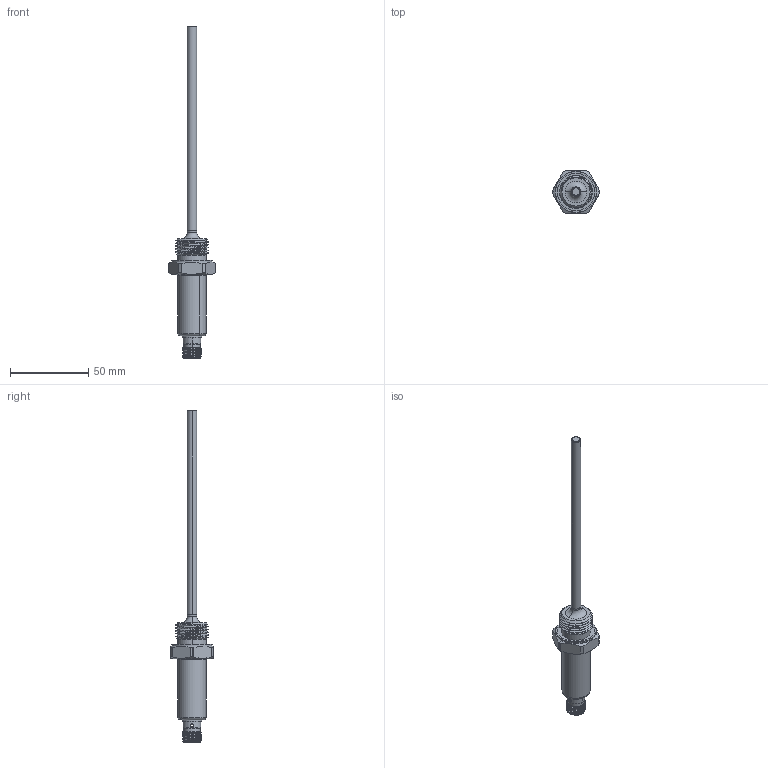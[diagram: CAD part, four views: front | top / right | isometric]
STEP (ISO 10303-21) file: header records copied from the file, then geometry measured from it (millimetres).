
FILE_DESCRIPTION (( 'STEP AP214' ), '1' );
FILE_NAME ('BTA1A34.STEP', '2026-03-16T03:05:27', ( '' ), ( '' ), 'SwSTEP 2.0', 'SolidWorks 2025', '' );
FILE_SCHEMA (( 'AUTOMOTIVE_DESIGN' ));
Length unit declared in the file: millimetre
Products named in the file (5): ____; __________11; BTA1A34; G4__________; ________
Assembly tree (4 placements, depth 2):
  BTA1A34
    G4__________
    ________
    ____
    __________11
Bounding box: 30 x 27 x 212.4 mm (x, y, z)
Volume: 13226.5 mm3; surface area: 12668.9 mm2
Topology: 4 solids, 4 shells, 144 faces, 335 edges, 214 vertices
Faces by surface type: cylinder 77, plane 32, cone 15, torus 14, bspline 6
Entity records: 7402 total; most frequent: CARTESIAN_POINT 4059, DIRECTION 683, ORIENTED_EDGE 670, EDGE_CURVE 335, AXIS2_PLACEMENT_3D 291, VERTEX_POINT 214, EDGE_LOOP 169, CIRCLE 146
